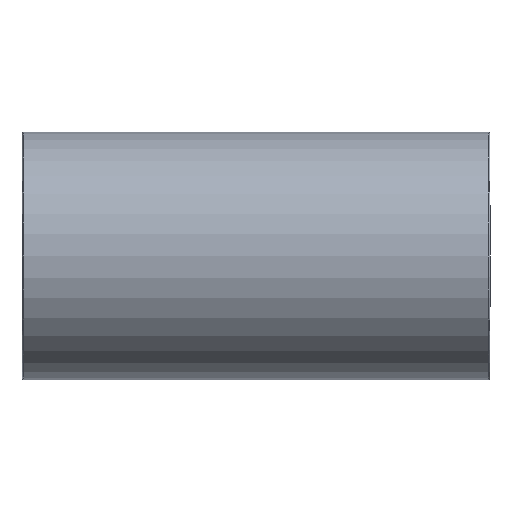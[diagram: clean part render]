
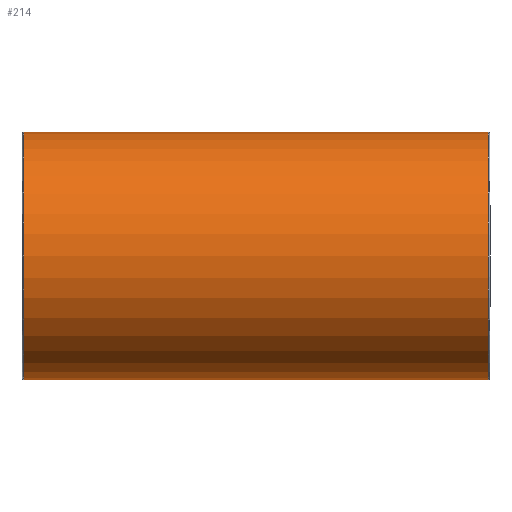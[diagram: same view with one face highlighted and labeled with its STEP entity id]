
A CAD part, front view. The second image highlights one B-rep face of the part: STEP entity #214.
In plain terms, the highlighted cylindrical face has radius 45 mm (diameter 90 mm), a full revolution.
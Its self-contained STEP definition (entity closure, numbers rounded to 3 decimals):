
#26=ELLIPSE('',#237,63.64,45.);
#27=ELLIPSE('',#238,63.64,45.);
#30=FACE_BOUND('',#69,.T.);
#31=FACE_BOUND('',#70,.T.);
#50=FACE_OUTER_BOUND('',#68,.T.);
#68=EDGE_LOOP('',(#165));
#69=EDGE_LOOP('',(#166));
#70=EDGE_LOOP('',(#167,#168));
#106=CIRCLE('',#235,45.);
#107=CIRCLE('',#236,45.);
#123=VERTEX_POINT('',#355);
#124=VERTEX_POINT('',#357);
#125=VERTEX_POINT('',#359);
#126=VERTEX_POINT('',#360);
#144=EDGE_CURVE('',#123,#123,#106,.T.);
#145=EDGE_CURVE('',#124,#124,#107,.T.);
#146=EDGE_CURVE('',#125,#126,#26,.T.);
#147=EDGE_CURVE('',#126,#125,#27,.T.);
#165=ORIENTED_EDGE('',*,*,#144,.F.);
#166=ORIENTED_EDGE('',*,*,#145,.F.);
#167=ORIENTED_EDGE('',*,*,#146,.F.);
#168=ORIENTED_EDGE('',*,*,#147,.F.);
#207=CYLINDRICAL_SURFACE('',#234,45.);
#214=ADVANCED_FACE('',(#50,#30,#31),#207,.T.);
#234=AXIS2_PLACEMENT_3D('',#354,#275,#276);
#235=AXIS2_PLACEMENT_3D('',#356,#277,#278);
#236=AXIS2_PLACEMENT_3D('',#358,#279,#280);
#237=AXIS2_PLACEMENT_3D('',#361,#281,#282);
#238=AXIS2_PLACEMENT_3D('',#362,#283,#284);
#275=DIRECTION('center_axis',(1.,0.,0.));
#276=DIRECTION('ref_axis',(0.,1.,0.));
#277=DIRECTION('center_axis',(-1.,0.,0.));
#278=DIRECTION('ref_axis',(0.,-1.,0.));
#279=DIRECTION('center_axis',(1.,0.,0.));
#280=DIRECTION('ref_axis',(0.,-1.,0.));
#281=DIRECTION('center_axis',(-0.707,0.707,0.));
#282=DIRECTION('ref_axis',(0.707,0.707,0.));
#283=DIRECTION('center_axis',(0.707,0.707,0.));
#284=DIRECTION('ref_axis',(-0.707,0.707,0.));
#354=CARTESIAN_POINT('Origin',(0.,0.,
0.));
#355=CARTESIAN_POINT('',(-84.278,45.,0.));
#356=CARTESIAN_POINT('Origin',(-84.278,0.,0.));
#357=CARTESIAN_POINT('',(84.278,45.,0.));
#358=CARTESIAN_POINT('Origin',(84.278,0.,0.));
#359=CARTESIAN_POINT('',(0.,0.,45.));
#360=CARTESIAN_POINT('',(0.,0.,-45.));
#361=CARTESIAN_POINT('Origin',(0.,0.,0.));
#362=CARTESIAN_POINT('Origin',(0.,0.,0.));
